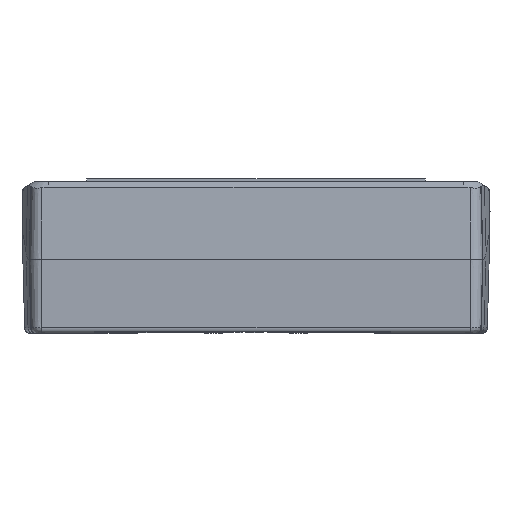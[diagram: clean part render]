
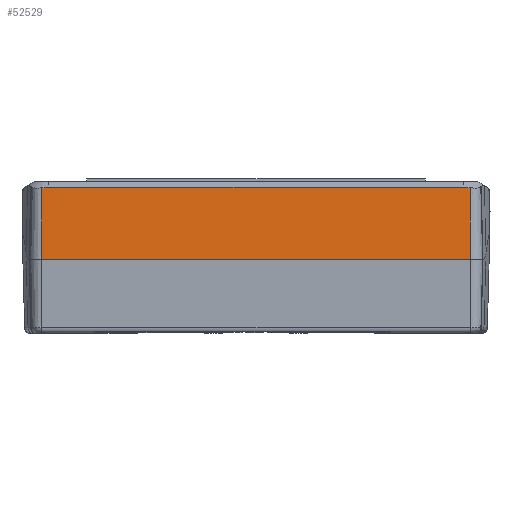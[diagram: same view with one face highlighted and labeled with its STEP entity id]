
A CAD part, left-side view. The second image highlights one B-rep face of the part: STEP entity #52529.
In plain terms, the highlighted planar face has unit normal (-1, 0, 0.026).
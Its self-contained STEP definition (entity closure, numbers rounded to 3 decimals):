
#15826=DIRECTION('',(-0.026,0.,-1.));
#15827=VECTOR('',#15826,25.443);
#15828=CARTESIAN_POINT('',(-33.334,75.991,
-2.166));
#15829=LINE('',#15828,#15827);
#15830=CARTESIAN_POINT('',(-33.334,-75.991,
-2.16));
#15831=CARTESIAN_POINT('',(-33.332,-75.592,
-2.096));
#15832=CARTESIAN_POINT('',(-33.33,-74.799,
-1.998));
#15833=CARTESIAN_POINT('',(-33.329,-74.01,
-1.966));
#15834=CARTESIAN_POINT('',(-33.329,-73.618,
-1.966));
#15836=DIRECTION('',(-0.026,0.,
-1.));
#15837=VECTOR('',#15836,25.449);
#15838=CARTESIAN_POINT('',(-33.334,-75.991,
-2.16));
#15839=LINE('',#15838,#15837);
#15840=DIRECTION('',(0.,1.,0.));
#15841=VECTOR('',#15840,151.981);
#15842=CARTESIAN_POINT('',(-34.,-75.991,-27.6));
#15843=LINE('',#15842,#15841);
#15844=CARTESIAN_POINT('',(-33.329,73.58,
-1.966));
#15845=CARTESIAN_POINT('',(-33.329,73.981,
-1.966));
#15846=CARTESIAN_POINT('',(-33.33,74.783,
-2.));
#15847=CARTESIAN_POINT('',(-33.332,75.587,
-2.1));
#15848=CARTESIAN_POINT('',(-33.334,75.991,
-2.166));
#15850=DIRECTION('',(0.,1.,0.));
#15851=VECTOR('',#15850,147.198);
#15852=CARTESIAN_POINT('',(-33.329,-73.618,
-1.966));
#15853=LINE('',#15852,#15851);
#15861=CARTESIAN_POINT('',(-33.334,-75.991,
-2.16));
#26856=CARTESIAN_POINT('',(-33.329,-73.618,
-1.966));
#26858=VERTEX_POINT('',#26856);
#26860=CARTESIAN_POINT('',(-33.329,73.58,
-1.966));
#26862=VERTEX_POINT('',#26860);
#27583=CARTESIAN_POINT('',(-34.,-75.991,-27.6));
#27585=VERTEX_POINT('',#27583);
#27586=CARTESIAN_POINT('',(-34.,75.991,-27.6));
#27587=VERTEX_POINT('',#27586);
#27620=VERTEX_POINT('',#15861);
#27621=VERTEX_POINT('',#15848);
#52515=CARTESIAN_POINT('',(-34.,75.991,-27.6));
#52516=DIRECTION('',(-1.,0.,0.026));
#52517=DIRECTION('',(0.,-1.,0.));
#52518=AXIS2_PLACEMENT_3D('',#52515,#52516,#52517);
#52519=PLANE('',#52518);
#52520=ORIENTED_EDGE('',*,*,#51025,.F.);
#52522=ORIENTED_EDGE('',*,*,#52521,.T.);
#52523=ORIENTED_EDGE('',*,*,#52042,.T.);
#52524=ORIENTED_EDGE('',*,*,#52508,.F.);
#52525=ORIENTED_EDGE('',*,*,#50985,.F.);
#52526=ORIENTED_EDGE('',*,*,#51003,.F.);
#52527=EDGE_LOOP('',(#52520,#52522,#52523,#52524,#52525,#52526));
#52528=FACE_OUTER_BOUND('',#52527,.F.);
#15835=B_SPLINE_CURVE_WITH_KNOTS('',3,(#15830,#15831,#15832,#15833,#15834),
.UNSPECIFIED.,.F.,.F.,(4,1,4),(0.,0.5,1.),.UNSPECIFIED.);
#15849=B_SPLINE_CURVE_WITH_KNOTS('',3,(#15844,#15845,#15846,#15847,#15848),
.UNSPECIFIED.,.F.,.F.,(4,1,4),(0.,0.5,1.),.UNSPECIFIED.);
#50985=EDGE_CURVE('',#26862,#27621,#15849,.T.);
#51003=EDGE_CURVE('',#26858,#26862,#15853,.T.);
#51025=EDGE_CURVE('',#27620,#26858,#15835,.T.);
#52042=EDGE_CURVE('',#27585,#27587,#15843,.T.);
#52508=EDGE_CURVE('',#27621,#27587,#15829,.T.);
#52521=EDGE_CURVE('',#27620,#27585,#15839,.T.);
#52529=ADVANCED_FACE('',(#52528),#52519,.T.);
